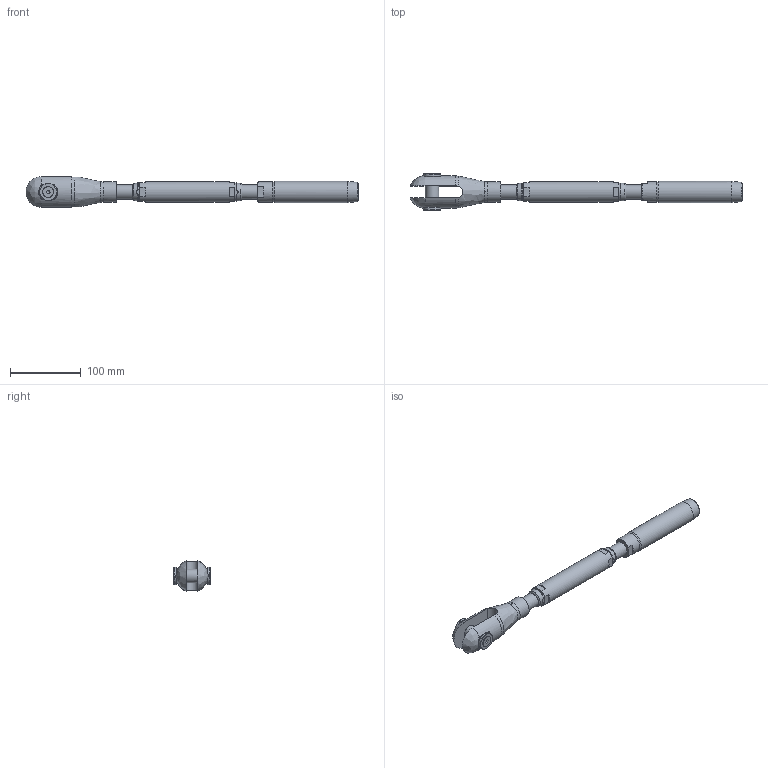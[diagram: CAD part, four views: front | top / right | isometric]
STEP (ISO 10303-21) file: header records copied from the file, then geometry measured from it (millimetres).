
FILE_DESCRIPTION(/* description */ (''),/* implementation_level */ '2;1');
FILE_NAME(/* name */ 'TBC 14_42CrMo4',/* time_stamp */ '2023-05-23T18:16:36+02:00',/* author */ (''),/* organization */ (''),/* preprocessor_version */ 'ST-DEVELOPER v16.5',/* originating_system */ 'Rhino 7.22',/* authorisation */ '');
FILE_SCHEMA (('CONFIG_CONTROL_DESIGN'));
Length unit declared in the file: millimetre
Products named in the file (1): Document
Bounding box: 470.34 x 52.72 x 42.74 mm (x, y, z)
Volume: 304626.4 mm3; surface area: 79259.7 mm2
Topology: 10 solids, 10 shells, 141 faces, 384 edges, 265 vertices
Faces by surface type: plane 65, bspline 41, cylinder 35
Full cylindrical faces by diameter (mm): 6.647 x2, 8 x2, 8.5 x2, 15.24 x2, 17.294 x4, 19 x1, 20 x4, 24 x1, 25 x2, 28.6 x2, 29 x1, 30 x1
Entity records: 5902 total; most frequent: CARTESIAN_POINT 3466, ORIENTED_EDGE 760, EDGE_CURVE 380, VERTEX_POINT 265, EDGE_LOOP 161, B_SPLINE_CURVE_WITH_KNOTS 158, ADVANCED_FACE 141, FACE_OUTER_BOUND 141
